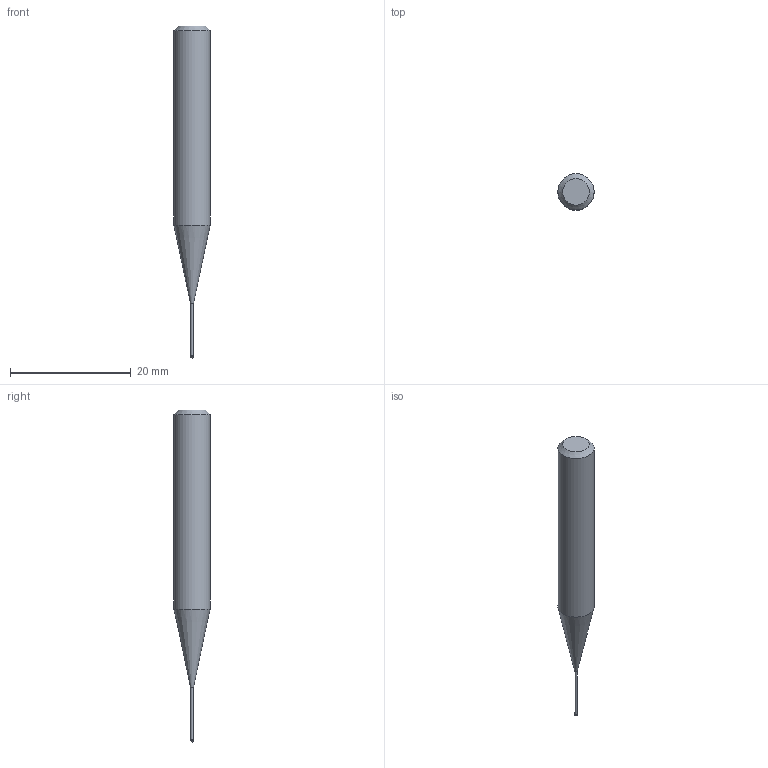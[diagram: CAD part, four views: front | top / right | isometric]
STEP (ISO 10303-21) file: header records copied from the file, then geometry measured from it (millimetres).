
FILE_DESCRIPTION((''),'2;1');
FILE_NAME('C:\Users\nsx150\AppData\Local\Temp\Mastercam 2021\3SYKECWX22\TEMP.step','2021-04-22T10:00:35',(''),(''),'STEP Write','Mastercam 2021 ... CNC Software, Inc.','');
FILE_SCHEMA(('AUTOMOTIVE_DESIGN'));
Length unit declared in the file: millimetre
Products named in the file (1): None
Bounding box: 6 x 6 x 55 mm (x, y, z)
Volume: 1061.1 mm3; surface area: 788.6 mm2
Topology: 2 solids, 2 shells, 9 faces, 14 edges, 8 vertices
Faces by surface type: plane 3, cylinder 3, cone 2, sphere 1
Full cylindrical faces by diameter (mm): 0.46 x1, 0.5 x1, 6 x1
Entity records: 211 total; most frequent: DIRECTION 36, CARTESIAN_POINT 25, AXIS2_PLACEMENT_3D 18, ORIENTED_EDGE 14, EDGE_LOOP 14, STYLED_ITEM 12, ADVANCED_FACE 9, FACE_BOUND 8
